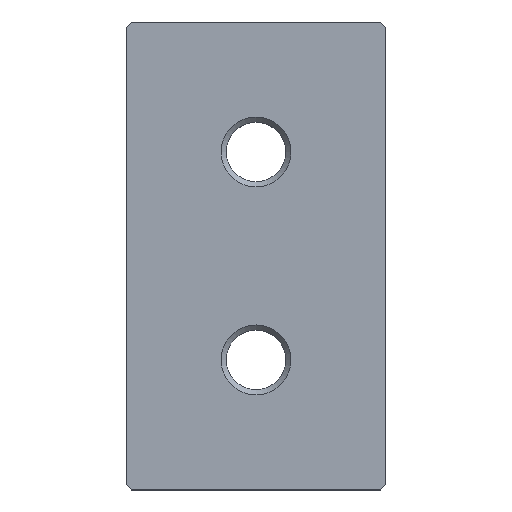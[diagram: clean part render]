
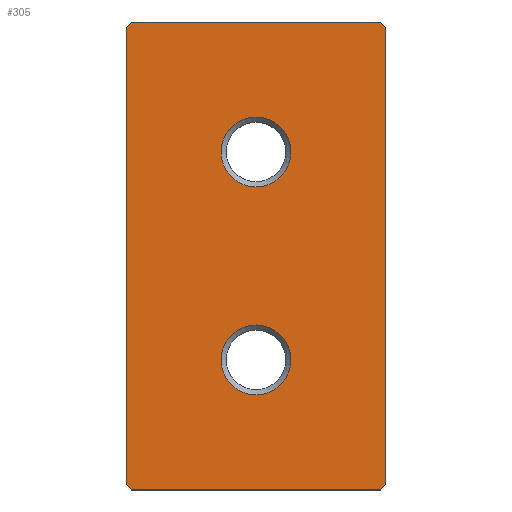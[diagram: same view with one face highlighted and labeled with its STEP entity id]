
A CAD part, top view. The second image highlights one B-rep face of the part: STEP entity #305.
In plain terms, the highlighted planar face has unit normal (0, 0, 1).
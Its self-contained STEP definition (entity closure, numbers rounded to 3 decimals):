
#305=ADVANCED_FACE('',(#770,#772,#774),#776,.T.);
#770=FACE_BOUND('',#771,.T.);
#771=EDGE_LOOP('',(#1091,#1092,#1093,#1094,#1095,#1096,#1097,#1098));
#772=FACE_BOUND('',#773,.T.);
#773=EDGE_LOOP('',(#1099));
#774=FACE_BOUND('',#775,.T.);
#775=EDGE_LOOP('',(#1100));
#776=PLANE('',#777);
#777=AXIS2_PLACEMENT_3D('',#778,#779,#780);
#778=CARTESIAN_POINT('',(0.,0.,15.));
#779=DIRECTION('',(0.,0.,1.));
#780=DIRECTION('',(-1.,0.,0.));
#1091=ORIENTED_EDGE('',*,*,#1176,.F.);
#1092=ORIENTED_EDGE('',*,*,#1189,.T.);
#1093=ORIENTED_EDGE('',*,*,#1188,.F.);
#1094=ORIENTED_EDGE('',*,*,#1186,.T.);
#1095=ORIENTED_EDGE('',*,*,#1184,.F.);
#1096=ORIENTED_EDGE('',*,*,#1182,.T.);
#1097=ORIENTED_EDGE('',*,*,#1180,.F.);
#1098=ORIENTED_EDGE('',*,*,#1177,.T.);
#1099=ORIENTED_EDGE('',*,*,#1216,.T.);
#1100=ORIENTED_EDGE('',*,*,#1217,.T.);
#1176=EDGE_CURVE('',#1287,#1285,#1289,.F.);
#1177=EDGE_CURVE('',#1290,#1285,#1291,.T.);
#1180=EDGE_CURVE('',#1290,#1293,#1295,.F.);
#1182=EDGE_CURVE('',#1296,#1293,#1298,.T.);
#1184=EDGE_CURVE('',#1296,#1299,#1301,.F.);
#1186=EDGE_CURVE('',#1302,#1299,#1304,.T.);
#1188=EDGE_CURVE('',#1302,#1305,#1307,.F.);
#1189=EDGE_CURVE('',#1287,#1305,#1308,.T.);
#1216=EDGE_CURVE('',#1353,#1353,#1354,.F.);
#1217=EDGE_CURVE('',#1355,#1355,#1356,.F.);
#1285=VERTEX_POINT('',#1506);
#1287=VERTEX_POINT('',#1510);
#1289=LINE('',#1514,#1515);
#1290=VERTEX_POINT('',#1517);
#1291=LINE('',#1518,#1519);
#1293=VERTEX_POINT('',#1524);
#1295=LINE('',#1528,#1529);
#1296=VERTEX_POINT('',#1531);
#1298=LINE('',#1535,#1536);
#1299=VERTEX_POINT('',#1538);
#1301=LINE('',#1542,#1543);
#1302=VERTEX_POINT('',#1545);
#1304=LINE('',#1549,#1550);
#1305=VERTEX_POINT('',#1552);
#1307=LINE('',#1556,#1557);
#1308=LINE('',#1559,#1560);
#1353=VERTEX_POINT('',#1672);
#1354=CIRCLE('',#1673,6.722);
#1355=VERTEX_POINT('',#1677);
#1356=CIRCLE('',#1678,6.722);
#1506=CARTESIAN_POINT('',(-25.,-44.,15.));
#1510=CARTESIAN_POINT('',(-24.,-45.,15.));
#1514=CARTESIAN_POINT('',(-25.,-44.,15.));
#1515=VECTOR('',#1516,1.);
#1516=DIRECTION('',(0.707,-0.707,0.));
#1517=CARTESIAN_POINT('',(-25.,44.,15.));
#1518=CARTESIAN_POINT('',(-25.,44.,15.));
#1519=VECTOR('',#1520,1.);
#1520=DIRECTION('',(0.,-1.,0.));
#1524=CARTESIAN_POINT('',(-24.,45.,15.));
#1528=CARTESIAN_POINT('',(-24.,45.,15.));
#1529=VECTOR('',#1530,1.);
#1530=DIRECTION('',(-0.707,-0.707,0.));
#1531=CARTESIAN_POINT('',(24.,45.,15.));
#1535=CARTESIAN_POINT('',(24.,45.,15.));
#1536=VECTOR('',#1537,1.);
#1537=DIRECTION('',(-1.,0.,0.));
#1538=CARTESIAN_POINT('',(25.,44.,15.));
#1542=CARTESIAN_POINT('',(25.,44.,15.));
#1543=VECTOR('',#1544,1.);
#1544=DIRECTION('',(-0.707,0.707,0.));
#1545=CARTESIAN_POINT('',(25.,-44.,15.));
#1549=CARTESIAN_POINT('',(25.,-44.,15.));
#1550=VECTOR('',#1551,1.);
#1551=DIRECTION('',(0.,1.,0.));
#1552=CARTESIAN_POINT('',(24.,-45.,15.));
#1556=CARTESIAN_POINT('',(24.,-45.,15.));
#1557=VECTOR('',#1558,1.);
#1558=DIRECTION('',(0.707,0.707,0.));
#1559=CARTESIAN_POINT('',(-24.,-45.,15.));
#1560=VECTOR('',#1561,1.);
#1561=DIRECTION('',(1.,0.,0.));
#1672=CARTESIAN_POINT('',(-6.722,20.,15.));
#1673=AXIS2_PLACEMENT_3D('',#1674,#1675,#1676);
#1674=CARTESIAN_POINT('',(0.,20.,15.));
#1675=DIRECTION('',(0.,0.,1.));
#1676=DIRECTION('',(-1.,0.,0.));
#1677=CARTESIAN_POINT('',(-6.722,-20.,15.));
#1678=AXIS2_PLACEMENT_3D('',#1679,#1680,#1681);
#1679=CARTESIAN_POINT('',(0.,-20.,15.));
#1680=DIRECTION('',(0.,0.,1.));
#1681=DIRECTION('',(-1.,0.,0.));
